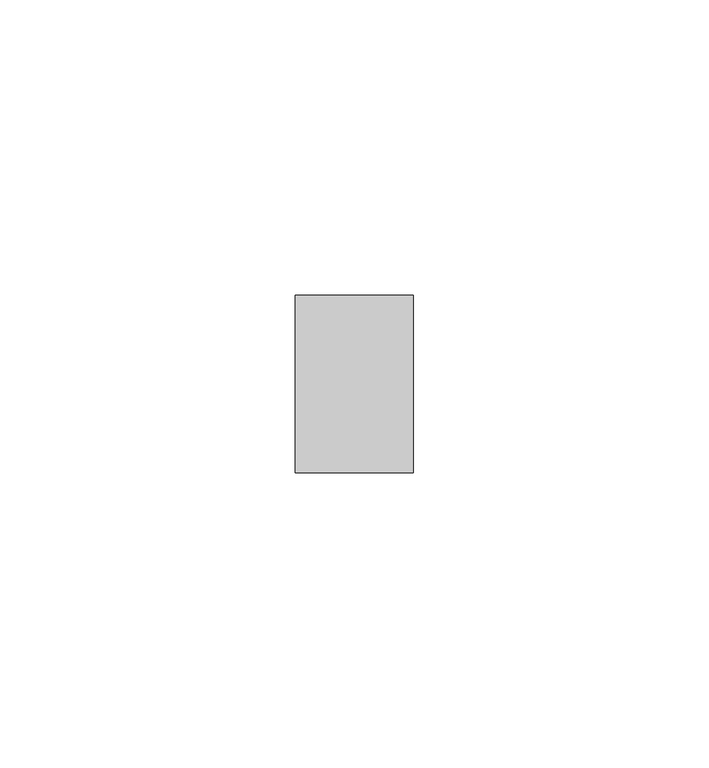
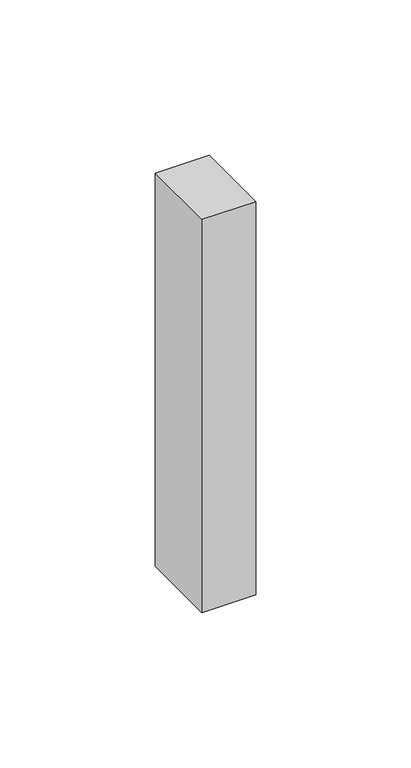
"""IFC4 building model written with IfcOpenShell, lengths in millimetres: member geometry, Прямоугольный импост : Квадрат 10 мм - Зазор между навесными плитами."""

import ifcopenshell
import ifcopenshell.guid

model = None  # the IFC model being written
_history = None  # IfcOwnerHistory: only IFC2X3 demands one
_inside = {}  # id of a spatial element -> (the spatial element, [elements in it])
_under = {}  # id of a project, library or spatial element -> (it, [spatial elements below it])
_declared = {}  # id of a project -> (the project, [libraries it declares])
_typed = {}  # id of a type object -> (the type object, [elements of that type])
_made_of = {}  # id of a material, layer set ... -> (it, [elements and type objects made of it])


def new_model(schema):
    """Start an empty IFC model of exactly this schema.

    Asked for "IFC4X3", IfcOpenShell would pick the latest addendum, in which some entities
    have other attributes; the version numbers below select the first issue.
    IFC2X3 requires an IfcOwnerHistory on every rooted entity: one is made here for all.
    """
    global model, _history
    if schema == "IFC4X3":
        model = ifcopenshell.file(schema_version=(4, 3, 0, 0))
    else:
        model = ifcopenshell.file(schema=schema)
    _inside.clear()
    _under.clear()
    _declared.clear()
    _typed.clear()
    _made_of.clear()
    _history = None
    if model.schema == "IFC2X3":
        org = make("IfcOrganization", Name="unknown")
        user = make(
            "IfcPersonAndOrganization",
            ThePerson=make("IfcPerson", FamilyName="unknown"),
            TheOrganization=org,
        )
        app = make(
            "IfcApplication",
            ApplicationDeveloper=org,
            Version="unknown",
            ApplicationFullName="unknown",
            ApplicationIdentifier="unknown",
        )
        _history = make(
            "IfcOwnerHistory",
            OwningUser=user,
            OwningApplication=app,
            ChangeAction="ADDED",
            CreationDate=0,
        )
    return model


def make(cls, **values):
    """One entity of the class cls with the attributes given. An attribute that is None is left unset."""
    return model.create_entity(
        cls, **{name: value for name, value in values.items() if value is not None}
    )


def rooted(cls, **values):
    """An entity with a GlobalId (a new one), such as an element, a storey or a relation."""
    return make(cls, GlobalId=ifcopenshell.guid.new(), OwnerHistory=_history, **values)


def si_unit(unit_type, name, prefix=None):
    """IfcSIUnit, for example si_unit("LENGTHUNIT", "METRE", prefix="MILLI")."""
    return make("IfcSIUnit", UnitType=unit_type, Prefix=prefix, Name=name)


def assignment(units):
    """IfcUnitAssignment: the units of a project."""
    return None if units is None else make("IfcUnitAssignment", Units=units)


def point(xyz):
    """IfcCartesianPoint."""
    return None if xyz is None else make("IfcCartesianPoint", Coordinates=xyz)


def direction(xyz):
    """IfcDirection."""
    return None if xyz is None else make("IfcDirection", DirectionRatios=xyz)


def frame(location, z_axis=None, x_axis=None):
    """IfcAxis2Placement3D, a coordinate frame: its origin and axes. An axis left out is left unset."""
    return make(
        "IfcAxis2Placement3D",
        Location=point(location),
        Axis=direction(z_axis),
        RefDirection=direction(x_axis),
    )


def origin():
    """The frame at (0, 0, 0) with its axes left unset."""
    return frame((0.0, 0.0, 0.0))


def place(relative_to, where):
    """IfcLocalPlacement: puts the frame where relative to a parent placement (None: the world)."""
    return make(
        "IfcLocalPlacement", PlacementRelTo=relative_to, RelativePlacement=where
    )


def context(
    kind, dimensions, precision=None, world=None, true_north=None, identifier=None
):
    """IfcGeometricRepresentationContext, for example the 3D "Model" context."""
    return make(
        "IfcGeometricRepresentationContext",
        ContextIdentifier=identifier,
        ContextType=kind,
        CoordinateSpaceDimension=dimensions,
        Precision=precision,
        WorldCoordinateSystem=world,
        TrueNorth=true_north,
    )


def project(units=None, contexts=None):
    """IfcProject with its units and contexts."""
    return rooted(
        "IfcProject",
        Name="project",
        RepresentationContexts=contexts,
        UnitsInContext=assignment(units),
    )


def spatial(cls, under=None, at=None, **own):
    """A site, building, storey or space (cls), placed at a placement, below another one or the project."""
    s = rooted(cls, ObjectPlacement=at, **own)
    if under is not None:
        _under.setdefault(under.id(), (under, []))[1].append(s)
    return s


def polyline(points):
    """IfcPolyline through the points."""
    return make("IfcPolyline", Points=[point(p) for p in points])


def outline(outer, holes=None, kind="AREA"):
    """IfcArbitraryClosedProfileDef: a profile drawn as a closed curve; with holes, ...WithVoids."""
    if holes is None:
        return make("IfcArbitraryClosedProfileDef", ProfileType=kind, OuterCurve=outer)
    return make(
        "IfcArbitraryProfileDefWithVoids",
        ProfileType=kind,
        OuterCurve=outer,
        InnerCurves=holes,
    )


def extrude(swept, where, along, depth):
    """IfcExtrudedAreaSolid: the profile swept, set in the frame where, extruded along a direction by depth."""
    return make(
        "IfcExtrudedAreaSolid",
        SweptArea=swept,
        Position=where,
        ExtrudedDirection=direction(along),
        Depth=depth,
    )


def shape(context_of_items, identifier, shape_type, items):
    """IfcShapeRepresentation: the items that make up one representation, for example the "Body"."""
    return make(
        "IfcShapeRepresentation",
        ContextOfItems=context_of_items,
        RepresentationIdentifier=identifier,
        RepresentationType=shape_type,
        Items=items,
    )


def source(mapping_origin, context_of_items, identifier, shape_type, items):
    """IfcRepresentationMap: a shape defined once, which mapped items show again and again."""
    return make(
        "IfcRepresentationMap",
        MappingOrigin=mapping_origin,
        MappedRepresentation=shape(context_of_items, identifier, shape_type, items),
    )


def transform(
    local_origin,
    x_axis=None,
    y_axis=None,
    z_axis=None,
    scale=None,
    scale2=None,
    scale3=None,
    uniform=True,
):
    """IfcCartesianTransformationOperator3D, or its non-uniform kind. x_axis, y_axis, z_axis: its Axis1, 2, 3."""
    if uniform:
        return make(
            "IfcCartesianTransformationOperator3D",
            Axis1=direction(x_axis),
            Axis2=direction(y_axis),
            LocalOrigin=point(local_origin),
            Scale=scale,
            Axis3=direction(z_axis),
        )
    return make(
        "IfcCartesianTransformationOperator3DnonUniform",
        Axis1=direction(x_axis),
        Axis2=direction(y_axis),
        LocalOrigin=point(local_origin),
        Scale=scale,
        Axis3=direction(z_axis),
        Scale2=scale2,
        Scale3=scale3,
    )


def mapped(mapping_source, mapping_target):
    """IfcMappedItem: shows the shape of a source again, moved by a transform."""
    return make(
        "IfcMappedItem", MappingSource=mapping_source, MappingTarget=mapping_target
    )


def made_of(thing, what):
    """Note that an element or type object is made of a material, layer set ...; save() writes the relation."""
    if what is not None:
        _made_of.setdefault(what.id(), (what, []))[1].append(thing)
    return thing


def element(
    cls,
    number,
    at=None,
    inside=None,
    cuts=None,
    type_object=None,
    material=None,
    context=None,
    identifier="Body",
    shape_type=None,
    held_by="IfcProductDefinitionShape",
    body=None,
    shapes=None,
    **own,
):
    """One element of the class cls, such as IfcWall. Its Tag is "e" and its number.

    at: its placement. inside: the storey or other place that contains it. cuts: it is an
    opening in that element (IfcRelVoidsElement). A single representation is given by context,
    identifier, shape_type and body (its items); several are given by shapes. held_by: the class
    of the entity that holds the representations. save() writes the other relations.
    """
    e = rooted(cls, Tag="e%d" % number, ObjectPlacement=at, **own)
    if body is not None:
        shapes = [shape(context, identifier, shape_type, body)]
    if shapes is not None:
        e.Representation = make(held_by, Representations=shapes)
    if inside is not None:
        _inside.setdefault(inside.id(), (inside, []))[1].append(e)
    if cuts is not None:
        rooted(
            "IfcRelVoidsElement", RelatingBuildingElement=cuts, RelatedOpeningElement=e
        )
    if type_object is not None:
        _typed.setdefault(type_object.id(), (type_object, []))[1].append(e)
    return made_of(e, material)


def aggregate(whole, parts):
    """IfcRelAggregates: a whole, such as a stair, and the parts it consists of."""
    return rooted("IfcRelAggregates", RelatingObject=whole, RelatedObjects=parts)


def save(model, path):
    """Write the relations noted so far, then the file.

    IfcRelAggregates (storeys below a building ...), IfcRelContainedInSpatialStructure (elements
    in a storey), IfcRelDefinesByType, IfcRelAssociatesMaterial and IfcRelDeclares: one each for
    every whole, place, type object, material and project.
    """
    for whole, parts in _under.values():
        aggregate(whole, parts)
    for where, things in _inside.values():
        rooted(
            "IfcRelContainedInSpatialStructure",
            RelatedElements=things,
            RelatingStructure=where,
        )
    for kind, things in _typed.values():
        rooted("IfcRelDefinesByType", RelatedObjects=things, RelatingType=kind)
    for what, things in _made_of.values():
        rooted("IfcRelAssociatesMaterial", RelatedObjects=things, RelatingMaterial=what)
    for by, libraries in _declared.values():
        rooted("IfcRelDeclares", RelatingContext=by, RelatedDefinitions=libraries)
    model.write(path)


def member_7bc045ba(model_context):
    return source(origin(), model_context, "Body", "SweptSolid", [
        extrude(outline(polyline([(10.0, 15.0), (10.0, -15.0), (-10.0, -15.0), (-10.0, 15.0), (10.0, 15.0)])), frame((0.0, 0.0, -154.575736), z_axis=(0.0, 0.0, 1.0), x_axis=(1.0, 0.0, 0.0)), (0.0, 0.0, 1.0), 154.575736),
    ])


if __name__ == "__main__":
    model = new_model("IFC4")
    model_context = context("Model", 3, world=origin())
    ifc_project = project(units=[si_unit("LENGTHUNIT", "METRE", prefix="MILLI")], contexts=[model_context])
    site = spatial("IfcSite", under=ifc_project)
    building = spatial("IfcBuilding", under=site)
    placement = place(None, origin())
    member_shape = member_7bc045ba(model_context)
    element("IfcMember", 1, ObjectType="Прямоугольный импост : Квадрат 10 мм - Зазор между навесными плитами", at=placement, inside=building, context=model_context, shape_type="MappedRepresentation", body=[
        mapped(member_shape, transform((0.0, 0.0, 0.0), x_axis=(1.0, 0.0, 0.0), y_axis=(0.0, 1.0, 0.0), z_axis=(0.0, 0.0, 1.0))),
    ])
    save(model, "model.ifc")
